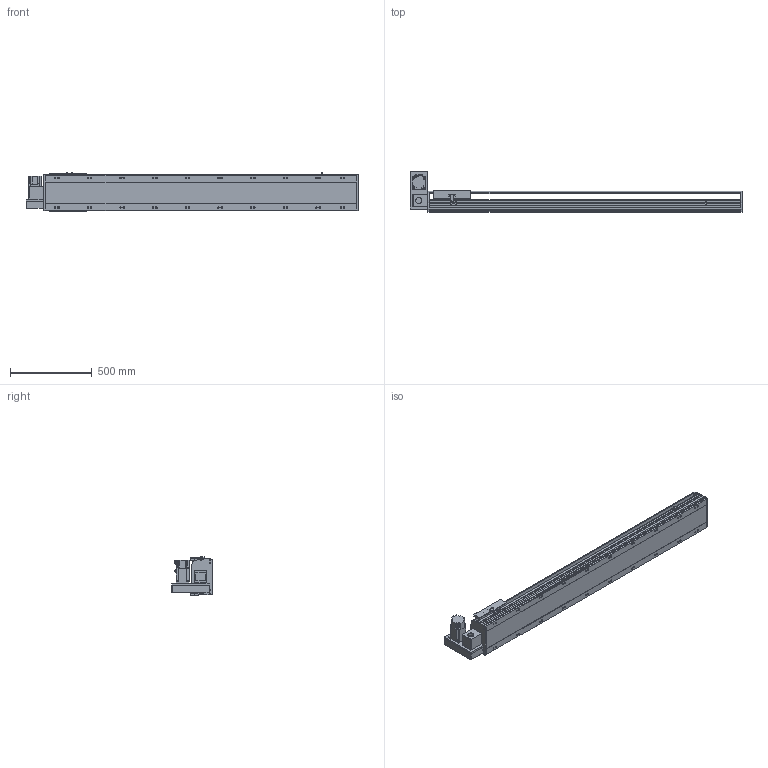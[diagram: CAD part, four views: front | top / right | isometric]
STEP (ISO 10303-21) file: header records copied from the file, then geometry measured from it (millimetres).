
FILE_DESCRIPTION(/* description */ ('STEP AP214'),/* implementation_level */ '2;1');
FILE_NAME(/* name */ 'PBS220-P40-S1550-LU-T75-C1-N(0)',/* time_stamp */ '2022-06-13T02:30:28+02:00',/* author */ ('License CC BY-ND 4.0'),/* organization */ ('CADENAS'),/* preprocessor_version */ 'ST-DEVELOPER v18.102',/* originating_system */ 'PARTsolutions',/* authorisation */ ' ');
FILE_SCHEMA (('AUTOMOTIVE_DESIGN {1 0 10303 214 3 1 1}'));
Length unit declared in the file: millimetre
Products named in the file (7): PBS220-P40-S1550-LU-T75-C1-N(0); PBS220_sensor; PBS220_plant; PBS220_sliser; T75-p1; PBS220T-LU_motors; PBS220-S1550()_body
Assembly tree (8 placements, depth 2):
  PBS220-P40-S1550-LU-T75-C1-N(0)
    PBS220_sensor  x3
    PBS220_plant
    PBS220_sliser
    T75-p1
    PBS220T-LU_motors
    PBS220-S1550()_body
Bounding box: 2034 x 247 x 238.5 mm (x, y, z)
Volume: 28865772.2 mm3; surface area: 2730220.9 mm2
Topology: 8 solids, 8 shells, 938 faces, 2452 edges, 1594 vertices
Faces by surface type: plane 606, cylinder 288, cone 44
Full cylindrical faces by diameter (mm): 2.013 x4, 4.5 x14, 4.917 x4, 6 x7, 6.647 x8, 8 x10, 8.376 x20, 8.5 x20, 10 x6, 14 x20, 38 x2, 40 x1, 70 x1
Entity records: 26253 total; most frequent: CARTESIAN_POINT 4624, DIRECTION 4563, ORIENTED_EDGE 4178, EDGE_CURVE 2089, AXIS2_PLACEMENT_3D 1607, VERTEX_POINT 1448, LINE 1349, VECTOR 1349
